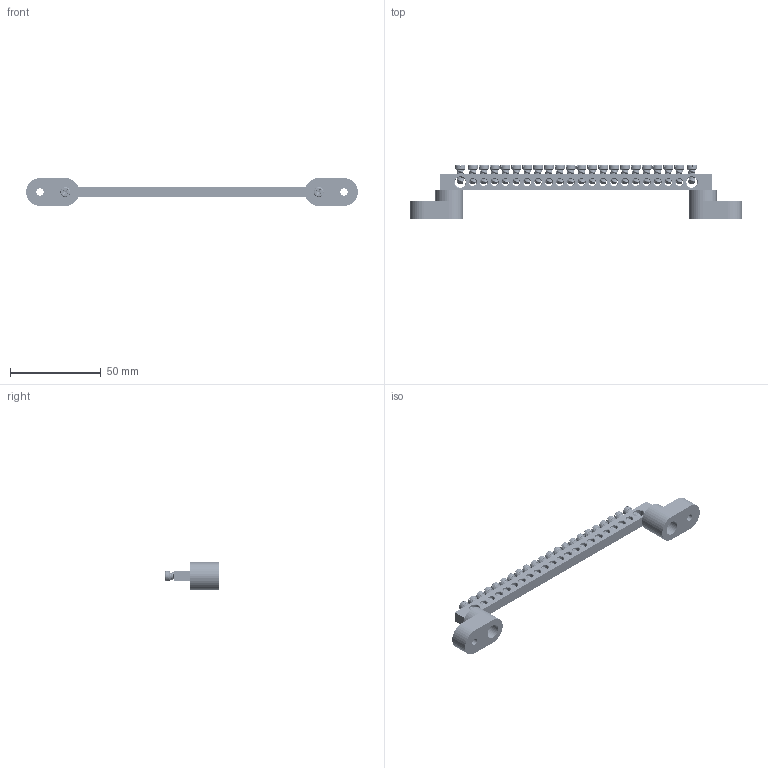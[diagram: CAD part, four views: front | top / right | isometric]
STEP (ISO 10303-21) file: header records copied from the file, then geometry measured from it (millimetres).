
FILE_DESCRIPTION (( 'STEP AP214' ), '1' );
FILE_NAME ('277894 OptiKit BB-T-N-S-22-6õ9-ñèíèé.STEP', '2020-02-06T12:34:23', ( '' ), ( '' ), 'SwSTEP 2.0', 'SolidWorks 2018', '' );
FILE_SCHEMA (( 'AUTOMOTIVE_DESIGN' ));
Length unit declared in the file: millimetre
Products named in the file (5): DIN èçîëÿòîð 2; Øèíà íóëåâàÿ ñ êðåïåæíûìè îòâåðñòèÿìè ïî êðàÿì 6õ9 22-2_1; Âèíò ì4; Øèíà 6õ9 22 2; 277894 OptiKit BB-T-N-S-22-6õ9-ñèíèé
Assembly tree (28 placements, depth 3):
  277894 OptiKit BB-T-N-S-22-6õ9-ñèíèé
    Øèíà íóëåâàÿ ñ êðåïåæíûìè îòâåðñòèÿìè ïî êðàÿì 6õ9 22-2_1
      Øèíà 6õ9 22 2
      Âèíò ì4  x22
    Âèíò ì4  x2
    DIN èçîëÿòîð 2  x2
Bounding box: 183.4 x 29.9 x 15.4 mm (x, y, z)
Volume: 17521.5 mm3; surface area: 15997.4 mm2
Topology: 27 solids, 27 shells, 1896 faces, 5264 edges, 3400 vertices
Faces by surface type: plane 666, cylinder 662, cone 304, torus 168, bspline 96
Entity records: 12303 total; most frequent: CARTESIAN_POINT 4759, DIRECTION 1448, ORIENTED_EDGE 1390, EDGE_CURVE 695, AXIS2_PLACEMENT_3D 584, VERTEX_POINT 432, EDGE_LOOP 369, CIRCLE 285
